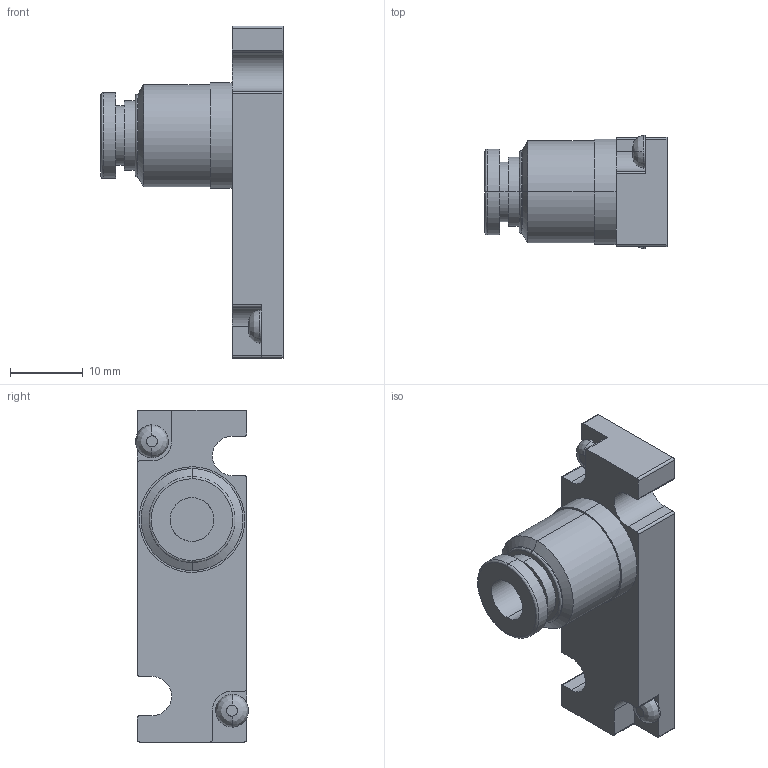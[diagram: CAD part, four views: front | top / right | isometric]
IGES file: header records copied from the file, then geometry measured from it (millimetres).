
Start section: ------------------------------------------------------------------------
Global section: file name: D:\ICADMX\tmp\trans3d_spg\CVICAD02.3036.F15_Port-FJ5A_16730.igs; native system: spGate; preprocessor: ver12.6.6; author: Unknown; organization: Unknown; date: 210712.184829; units: millimetre
Bounding box: 25 x 15.5 x 45.6 mm (x, y, z)
Volume: 6275.3 mm3; surface area: 3337.2 mm2
Topology: 1 solids, 1 shells, 72 faces, 176 edges, 112 vertices
Faces by surface type: bspline 72
